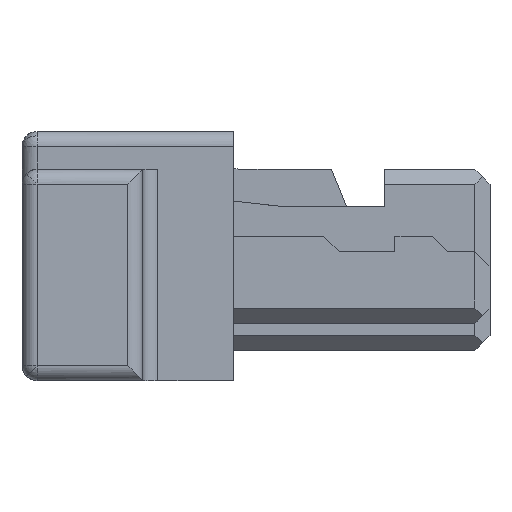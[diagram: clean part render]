
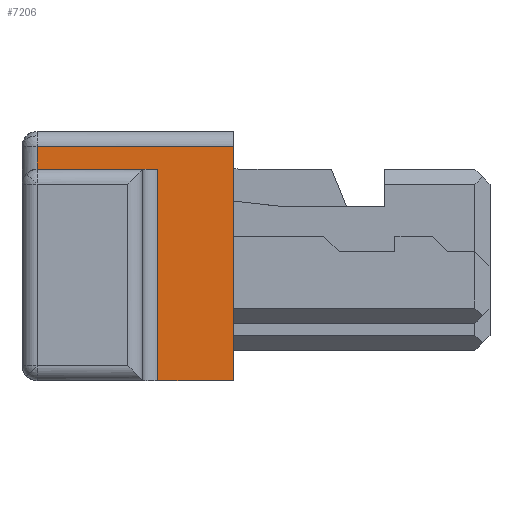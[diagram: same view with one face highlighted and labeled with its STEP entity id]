
A CAD part, front view. The second image highlights one B-rep face of the part: STEP entity #7206.
In plain terms, the highlighted planar face has unit normal (0, -1, 0).
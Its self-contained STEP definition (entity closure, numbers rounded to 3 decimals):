
#274=DIRECTION('',(0.,0.,1.));
#275=VECTOR('',#274,1.4);
#276=CARTESIAN_POINT('',(0.9,-6.8,-0.825));
#277=LINE('',#276,#275);
#278=DIRECTION('',(1.,0.,0.));
#279=VECTOR('',#278,0.5);
#280=CARTESIAN_POINT('',(0.9,-6.8,-0.825));
#281=LINE('',#280,#279);
#282=DIRECTION('',(1.,0.,0.));
#283=VECTOR('',#282,0.8);
#284=CARTESIAN_POINT('',(0.1,-6.8,0.575));
#285=LINE('',#284,#283);
#286=DIRECTION('',(0.,0.,1.));
#287=VECTOR('',#286,0.15);
#288=CARTESIAN_POINT('',(0.1,-6.8,0.575));
#289=LINE('',#288,#287);
#351=DIRECTION('',(1.,0.,0.));
#352=VECTOR('',#351,1.3);
#353=CARTESIAN_POINT('',(0.1,-6.8,0.725));
#354=LINE('',#353,#352);
#400=DIRECTION('',(0.,0.,-1.));
#401=VECTOR('',#400,1.55);
#402=CARTESIAN_POINT('',(1.4,-6.8,0.725));
#403=LINE('',#402,#401);
#5179=CARTESIAN_POINT('',(0.1,-6.8,0.575));
#5180=VERTEX_POINT('',#5179);
#5181=CARTESIAN_POINT('',(0.9,-6.8,0.575));
#5182=VERTEX_POINT('',#5181);
#5266=CARTESIAN_POINT('',(0.9,-6.8,-0.825));
#5267=VERTEX_POINT('',#5266);
#5268=CARTESIAN_POINT('',(1.4,-6.8,-0.825));
#5269=VERTEX_POINT('',#5268);
#5278=CARTESIAN_POINT('',(0.1,-6.8,0.725));
#5279=CARTESIAN_POINT('',(1.4,-6.8,0.725));
#5280=VERTEX_POINT('',#5278);
#5281=VERTEX_POINT('',#5279);
#7190=CARTESIAN_POINT('',(0.75,-6.8,-0.05));
#7191=DIRECTION('',(0.,1.,0.));
#7192=DIRECTION('',(-1.,0.,0.));
#7193=AXIS2_PLACEMENT_3D('',#7190,#7191,#7192);
#7194=PLANE('',#7193);
#7196=ORIENTED_EDGE('',*,*,#7195,.T.);
#7198=ORIENTED_EDGE('',*,*,#7197,.T.);
#7200=ORIENTED_EDGE('',*,*,#7199,.T.);
#7201=ORIENTED_EDGE('',*,*,#7163,.F.);
#7202=ORIENTED_EDGE('',*,*,#7184,.T.);
#7203=ORIENTED_EDGE('',*,*,#6713,.F.);
#7204=EDGE_LOOP('',(#7196,#7198,#7200,#7201,#7202,#7203));
#7205=FACE_OUTER_BOUND('',#7204,.F.);
#7206=ADVANCED_FACE('',(#7205),#7194,.F.);
#6713=EDGE_CURVE('',#5180,#5182,#285,.T.);
#7163=EDGE_CURVE('',#5267,#5269,#281,.T.);
#7184=EDGE_CURVE('',#5267,#5182,#277,.T.);
#7195=EDGE_CURVE('',#5180,#5280,#289,.T.);
#7197=EDGE_CURVE('',#5280,#5281,#354,.T.);
#7199=EDGE_CURVE('',#5281,#5269,#403,.T.);
